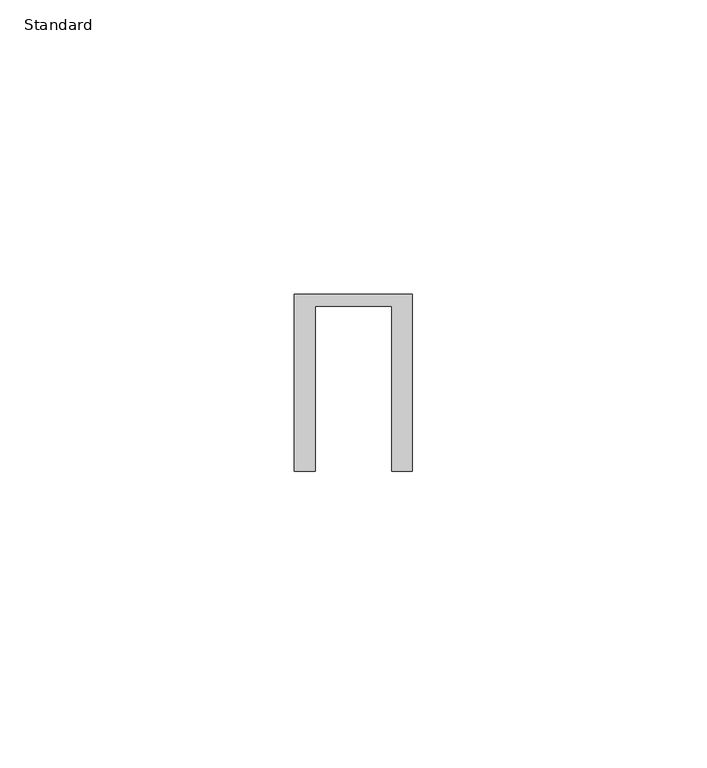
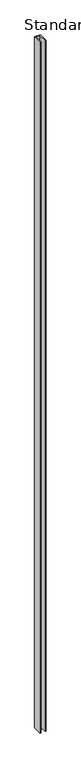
"""IFC4 building model written with IfcOpenShell, lengths in millimetres: furniture geometry, X_Partition-Channel-Duracube-Corner : Standard."""

from ifc_helpers import new_model, si_unit, origin, origin_with_axes, place, context, project, spatial, polyline, outline, extrude, source, transform, mapped, element, save


def standard_8169fa8b(model_context):
    return source(origin(), model_context, "Body", "SweptSolid", [
        extrude(outline(polyline([(21.4503264, 0.0), (21.4503264, 30.0), (41.4503264, 30.0), (41.4503264, 0.0), (37.9503264, 0.0), (37.9503264, 28.0), (24.9503264, 28.0), (24.9503264, 0.0), (21.4503264, 0.0)])), origin_with_axes(), (0.0, 0.0, 1.0), 2400.0),
    ])


if __name__ == "__main__":
    model = new_model("IFC4")
    model_context = context("Model", 3, world=origin())
    ifc_project = project(units=[si_unit("LENGTHUNIT", "METRE", prefix="MILLI")], contexts=[model_context])
    site = spatial("IfcSite", under=ifc_project)
    building = spatial("IfcBuilding", under=site)
    placement = place(None, origin())
    standard_shape = standard_8169fa8b(model_context)
    element("IfcFurniture", 1, ObjectType="X_Partition-Channel-Duracube-Corner : Standard", at=placement, inside=building, context=model_context, shape_type="MappedRepresentation", body=[
        mapped(standard_shape, transform((0.0, 0.0, 0.0), x_axis=(1.0, 0.0, 0.0), y_axis=(0.0, 1.0, 0.0), z_axis=(0.0, 0.0, 1.0))),
    ])
    save(model, "model.ifc")
